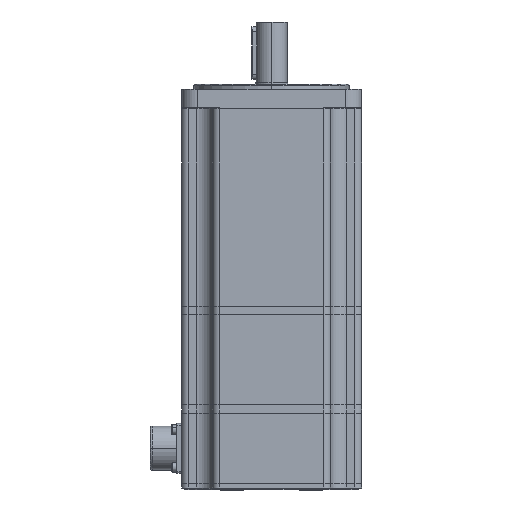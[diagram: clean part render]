
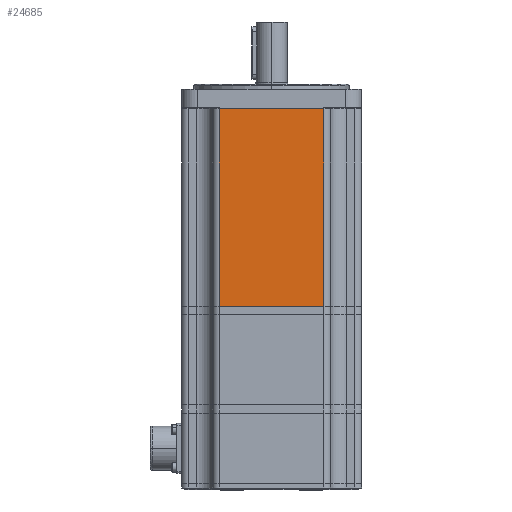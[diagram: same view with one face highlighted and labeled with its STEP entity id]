
A CAD part, left-side view. The second image highlights one B-rep face of the part: STEP entity #24685.
In plain terms, the highlighted planar face has unit normal (-1, 0, 0).
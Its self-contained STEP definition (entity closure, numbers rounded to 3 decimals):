
#2341 = CARTESIAN_POINT ( 'NONE',  ( -53.877, -21.22, 60.5 ) ) ;
#8994 = CARTESIAN_POINT ( 'NONE',  ( -53.877, 42.78, 60.5 ) ) ;
#8995 = LINE ( 'NONE', #8994, #9056 ) ;
#8996 = CARTESIAN_POINT ( 'NONE',  ( -53.877, 42.78, -60.5 ) ) ;
#9002 = CARTESIAN_POINT ( 'NONE',  ( -53.877, 42.78, 60.5 ) ) ;
#9045 = DIRECTION ( 'NONE',  ( 0., 0., -1. ) ) ;
#9046 = VECTOR ( 'NONE', #9045, 1000. ) ;
#9047 = CARTESIAN_POINT ( 'NONE',  ( -53.877, -21.22, 60.5 ) ) ;
#9048 = DIRECTION ( 'NONE',  ( 0., 1., 0. ) ) ;
#9049 = DIRECTION ( 'NONE',  ( 1., 0., 0. ) ) ;
#9050 = CARTESIAN_POINT ( 'NONE',  ( -53.877, 42.78, 60.5 ) ) ;
#9051 = AXIS2_PLACEMENT_3D ( 'NONE', #9050, #9049, #9048 ) ;
#9052 = PLANE ( 'NONE',  #9051 ) ;
#9053 = LINE ( 'NONE', #9047, #9046 ) ;
#9054 = FACE_OUTER_BOUND ( 'NONE', #24686, .T. ) ;
#9055 = DIRECTION ( 'NONE',  ( 0., 0., 1. ) ) ;
#9056 = VECTOR ( 'NONE', #9055, 1000. ) ;
#9473 = CARTESIAN_POINT ( 'NONE',  ( -53.877, -21.22, -60.5 ) ) ;
#9556 = DIRECTION ( 'NONE',  ( 0., -1., 0. ) ) ;
#9557 = VECTOR ( 'NONE', #9556, 1000. ) ;
#9558 = CARTESIAN_POINT ( 'NONE',  ( -53.877, 56.78, -60.5 ) ) ;
#9559 = LINE ( 'NONE', #9558, #9557 ) ;
#9560 = DIRECTION ( 'NONE',  ( 0., -1., 0. ) ) ;
#9561 = VECTOR ( 'NONE', #9560, 1000. ) ;
#9562 = CARTESIAN_POINT ( 'NONE',  ( -53.877, 56.78, 60.5 ) ) ;
#9563 = LINE ( 'NONE', #9562, #9561 ) ;
#9788 = VERTEX_POINT ( 'NONE', #2341 ) ;
#24678 = VERTEX_POINT ( 'NONE', #9002 ) ;
#24682 = VERTEX_POINT ( 'NONE', #8996 ) ;
#24684 = EDGE_CURVE ( 'NONE', #24682, #24678, #8995, .T. ) ;
#24685 = ADVANCED_FACE ( 'NONE', ( #9054 ), #9052, .F. ) ;
#24686 = EDGE_LOOP ( 'NONE', ( #24687, #24823, #24825, #24826 ) ) ;
#24687 = ORIENTED_EDGE ( 'NONE', *, *, #24688, .F. ) ;
#24688 = EDGE_CURVE ( 'NONE', #9788, #24771, #9053, .T. ) ;
#24771 = VERTEX_POINT ( 'NONE', #9473 ) ;
#24823 = ORIENTED_EDGE ( 'NONE', *, *, #24824, .F. ) ;
#24824 = EDGE_CURVE ( 'NONE', #24678, #9788, #9563, .T. ) ;
#24825 = ORIENTED_EDGE ( 'NONE', *, *, #24684, .F. ) ;
#24826 = ORIENTED_EDGE ( 'NONE', *, *, #24827, .T. ) ;
#24827 = EDGE_CURVE ( 'NONE', #24682, #24771, #9559, .T. ) ;
